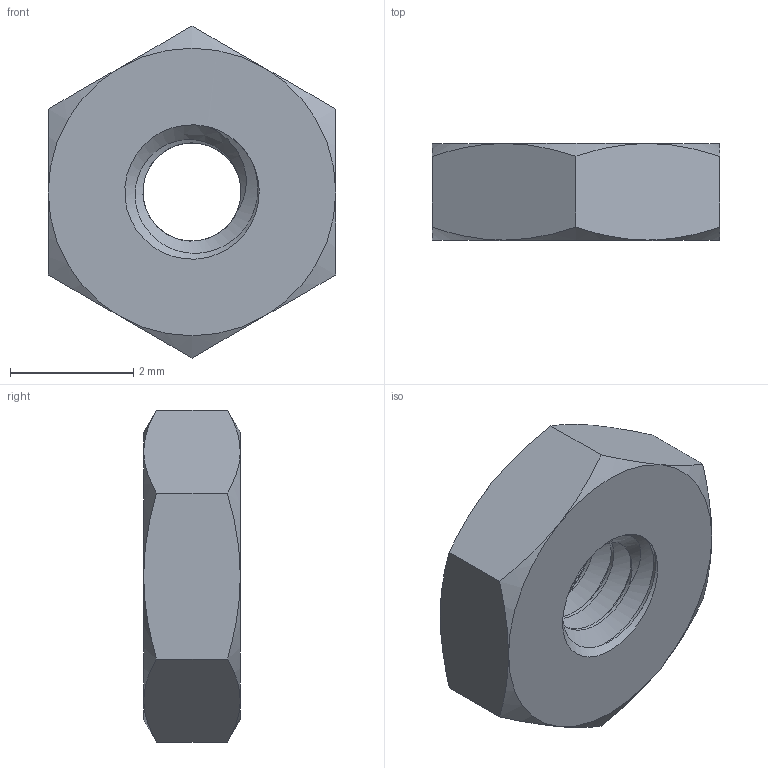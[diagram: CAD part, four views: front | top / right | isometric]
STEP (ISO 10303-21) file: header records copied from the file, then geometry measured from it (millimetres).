
FILE_DESCRIPTION (( 'STEP AP203' ), '1' );
FILE_NAME ('N256Z.STEP', '2025-09-08T18:55:28', ( '' ), ( '' ), 'SwSTEP 2.0', 'SolidWorks 2020', '' );
FILE_SCHEMA (( 'CONFIG_CONTROL_DESIGN' ));
Length unit declared in the file: inch
Products named in the file (1): N256Z
Bounding box: 4.67 x 1.57 x 5.39 mm (x, y, z)
Volume: 24.8 mm3; surface area: 69.9 mm2
Topology: 1 solids, 1 shells, 26 faces, 57 edges, 33 vertices
Faces by surface type: cone 14, plane 8, bspline 3, cylinder 1
Entity records: 1362 total; most frequent: CARTESIAN_POINT 785, ORIENTED_EDGE 114, DIRECTION 86, EDGE_CURVE 57, AXIS2_PLACEMENT_3D 40, VERTEX_POINT 33, B_SPLINE_CURVE_WITH_KNOTS 31, EDGE_LOOP 28
